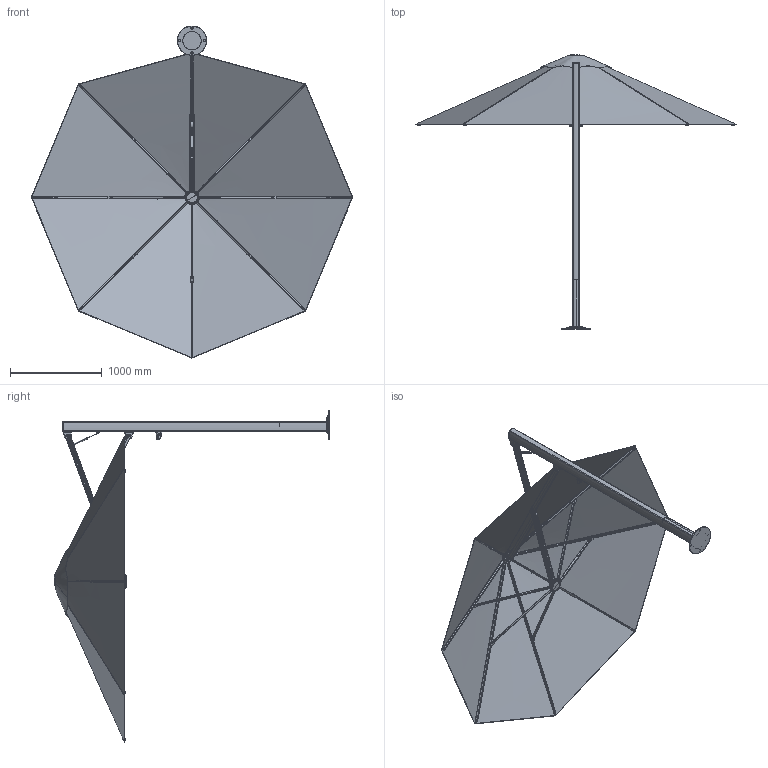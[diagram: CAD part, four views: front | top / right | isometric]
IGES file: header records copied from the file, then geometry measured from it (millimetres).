
Start section: SolidWorks IGES file using analytic representation for surfaces
Global section: file name: S:\RESEARCH and DEVELOPMENT\UnitySerenity Simple CAD Models\1. Export CAD\IGES Files\Serenity 3.5M Octagonal.IGS; native system: SolidWorks 2017; preprocessor: SolidWorks 2017; author: Peter; date: 200618.171428; units: millimetre
Bounding box: 3507.77 x 3004.95 x 3626.88 mm (x, y, z)
Surface area: 24230655.3 mm2 (no closed solid volume)
Topology: 0 solids, 0 shells, 1835 faces, 25803 edges, 25777 vertices
Faces by surface type: bspline 947, revolution 888
